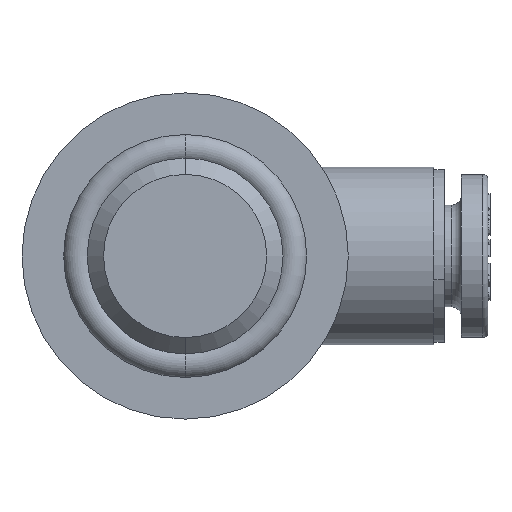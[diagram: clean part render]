
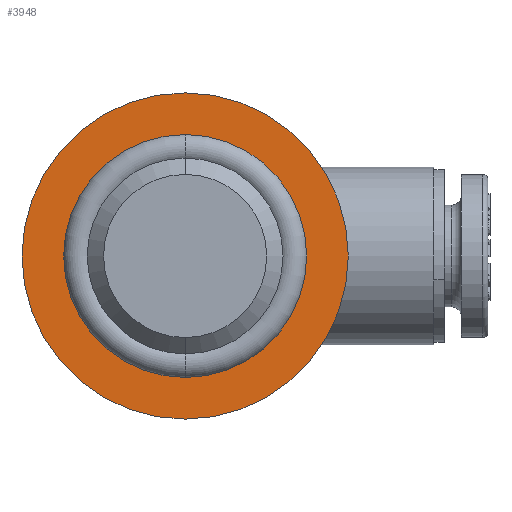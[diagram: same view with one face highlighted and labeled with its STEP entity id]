
A CAD part, front view. The second image highlights one B-rep face of the part: STEP entity #3948.
In plain terms, the highlighted planar face has unit normal (0, -1, 0).
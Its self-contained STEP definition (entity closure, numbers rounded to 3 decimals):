
#532 = EDGE_LOOP ( 'NONE', ( #13134, #7412 ) ) ;
#559 = DIRECTION ( 'NONE',  ( 0., 0., -1. ) ) ;
#938 = CARTESIAN_POINT ( 'NONE',  ( 0., 6., 0. ) ) ;
#1588 = VERTEX_POINT ( 'NONE', #11391 ) ;
#1670 = ORIENTED_EDGE ( 'NONE', *, *, #9978, .T. ) ;
#1854 = AXIS2_PLACEMENT_3D ( 'NONE', #12095, #10999, #559 ) ;
#2857 = AXIS2_PLACEMENT_3D ( 'NONE', #938, #9191, #8957 ) ;
#3948 = ADVANCED_FACE ( 'NONE', ( #13065, #4140 ), #10856, .T. ) ;
#4075 = VERTEX_POINT ( 'NONE', #12837 ) ;
#4140 = FACE_OUTER_BOUND ( 'NONE', #4469, .T. ) ;
#4369 = CARTESIAN_POINT ( 'NONE',  ( 0., 6., 0. ) ) ;
#4469 = EDGE_LOOP ( 'NONE', ( #14010, #1670 ) ) ;
#4849 = DIRECTION ( 'NONE',  ( 0., -1., 0. ) ) ;
#5414 = DIRECTION ( 'NONE',  ( 0., 0., -1. ) ) ;
#5692 = CIRCLE ( 'NONE', #13912, 8. ) ;
#6331 = CARTESIAN_POINT ( 'NONE',  ( 0., 6., -5.957 ) ) ;
#6453 = AXIS2_PLACEMENT_3D ( 'NONE', #4369, #6835, #8880 ) ;
#6488 = CARTESIAN_POINT ( 'NONE',  ( 0., 6., 5.957 ) ) ;
#6835 = DIRECTION ( 'NONE',  ( 0., -1., 0. ) ) ;
#7412 = ORIENTED_EDGE ( 'NONE', *, *, #11593, .F. ) ;
#7879 = DIRECTION ( 'NONE',  ( 0., -1., 0. ) ) ;
#8114 = CARTESIAN_POINT ( 'NONE',  ( 0., 6., 0. ) ) ;
#8880 = DIRECTION ( 'NONE',  ( 0., 0., -1. ) ) ;
#8957 = DIRECTION ( 'NONE',  ( 0., 0., -1. ) ) ;
#9191 = DIRECTION ( 'NONE',  ( 0., -1., 0. ) ) ;
#9254 = CIRCLE ( 'NONE', #2857, 8. ) ;
#9735 = EDGE_CURVE ( 'NONE', #13649, #13379, #12258, .T. ) ;
#9978 = EDGE_CURVE ( 'NONE', #1588, #4075, #5692, .T. ) ;
#10856 = PLANE ( 'NONE',  #1854 ) ;
#10999 = DIRECTION ( 'NONE',  ( 0., -1., 0. ) ) ;
#11391 = CARTESIAN_POINT ( 'NONE',  ( 0., 6., 8. ) ) ;
#11593 = EDGE_CURVE ( 'NONE', #13379, #13649, #13031, .T. ) ;
#12095 = CARTESIAN_POINT ( 'NONE',  ( 4.8, 6., 0. ) ) ;
#12258 = CIRCLE ( 'NONE', #12982, 5.957 ) ;
#12666 = DIRECTION ( 'NONE',  ( 0., 0., -1. ) ) ;
#12837 = CARTESIAN_POINT ( 'NONE',  ( 0., 6., -8. ) ) ;
#12982 = AXIS2_PLACEMENT_3D ( 'NONE', #8114, #4849, #12666 ) ;
#13031 = CIRCLE ( 'NONE', #6453, 5.957 ) ;
#13065 = FACE_BOUND ( 'NONE', #532, .T. ) ;
#13134 = ORIENTED_EDGE ( 'NONE', *, *, #9735, .F. ) ;
#13379 = VERTEX_POINT ( 'NONE', #6488 ) ;
#13649 = VERTEX_POINT ( 'NONE', #6331 ) ;
#13706 = EDGE_CURVE ( 'NONE', #4075, #1588, #9254, .T. ) ;
#13912 = AXIS2_PLACEMENT_3D ( 'NONE', #14398, #7879, #5414 ) ;
#14010 = ORIENTED_EDGE ( 'NONE', *, *, #13706, .T. ) ;
#14398 = CARTESIAN_POINT ( 'NONE',  ( 0., 6., 0. ) ) ;
